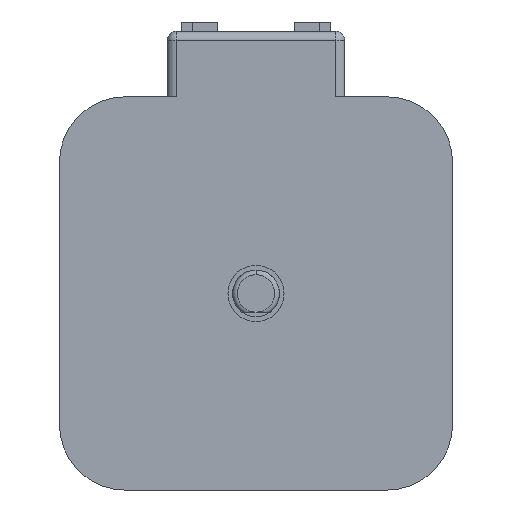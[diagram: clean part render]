
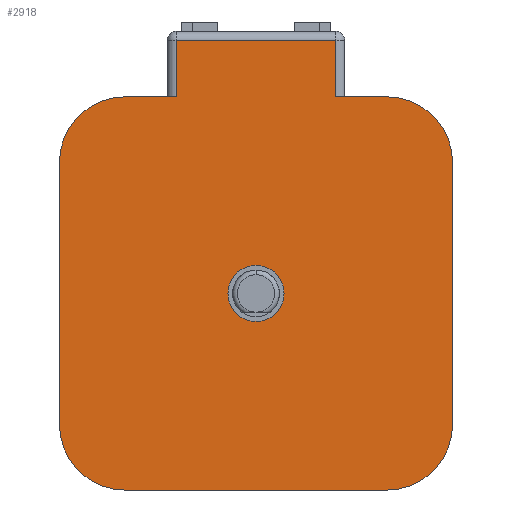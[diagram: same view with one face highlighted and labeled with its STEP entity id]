
A CAD part, front view. The second image highlights one B-rep face of the part: STEP entity #2918.
In plain terms, the highlighted planar face has unit normal (0, -1, 0).
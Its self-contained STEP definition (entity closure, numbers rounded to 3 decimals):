
#31 = ORIENTED_EDGE ( 'NONE', *, *, #4525, .T. ) ;
#51 = DIRECTION ( 'NONE',  ( 0., -1., 0. ) ) ;
#175 = ORIENTED_EDGE ( 'NONE', *, *, #3488, .T. ) ;
#176 = CARTESIAN_POINT ( 'NONE',  ( 21., -65., 21. ) ) ;
#181 = EDGE_CURVE ( 'NONE', #2226, #5499, #1094, .T. ) ;
#242 = CARTESIAN_POINT ( 'NONE',  ( 21., -65., -21. ) ) ;
#296 = EDGE_CURVE ( 'NONE', #3294, #4235, #3158, .T. ) ;
#521 = VECTOR ( 'NONE', #1186, 1000. ) ;
#536 = CARTESIAN_POINT ( 'NONE',  ( 14., -65., -21. ) ) ;
#578 = DIRECTION ( 'NONE',  ( 0., 0., -1. ) ) ;
#608 = CARTESIAN_POINT ( 'NONE',  ( -8.5, -65., 21. ) ) ;
#710 = LINE ( 'NONE', #176, #4697 ) ;
#722 = DIRECTION ( 'NONE',  ( 0., 0., 1. ) ) ;
#742 = ORIENTED_EDGE ( 'NONE', *, *, #4794, .T. ) ;
#785 = LINE ( 'NONE', #242, #5882 ) ;
#818 = EDGE_CURVE ( 'NONE', #3143, #2226, #3014, .T. ) ;
#868 = CARTESIAN_POINT ( 'NONE',  ( 21., -65., 21. ) ) ;
#1088 = ORIENTED_EDGE ( 'NONE', *, *, #2062, .T. ) ;
#1094 = LINE ( 'NONE', #4571, #4646 ) ;
#1110 = VECTOR ( 'NONE', #3151, 1000. ) ;
#1125 = DIRECTION ( 'NONE',  ( 0., -1., 0. ) ) ;
#1186 = DIRECTION ( 'NONE',  ( -1., 0., 0. ) ) ;
#1282 = AXIS2_PLACEMENT_3D ( 'NONE', #5182, #4733, #5744 ) ;
#1326 = CIRCLE ( 'NONE', #4828, 7. ) ;
#1453 = VECTOR ( 'NONE', #4729, 1000. ) ;
#1539 = ORIENTED_EDGE ( 'NONE', *, *, #4576, .T. ) ;
#1615 = AXIS2_PLACEMENT_3D ( 'NONE', #3046, #1125, #4412 ) ;
#1650 = DIRECTION ( 'NONE',  ( 0., -1., 0. ) ) ;
#1779 = VECTOR ( 'NONE', #2503, 1000. ) ;
#1846 = EDGE_CURVE ( 'NONE', #4597, #3294, #3692, .T. ) ;
#1927 = CARTESIAN_POINT ( 'NONE',  ( 14., -65., -14. ) ) ;
#1928 = CARTESIAN_POINT ( 'NONE',  ( -21., -65., 21. ) ) ;
#1955 = DIRECTION ( 'NONE',  ( 0., 0., 1. ) ) ;
#2033 = FACE_OUTER_BOUND ( 'NONE', #4061, .T. ) ;
#2062 = EDGE_CURVE ( 'NONE', #2527, #5983, #710, .T. ) ;
#2133 = VERTEX_POINT ( 'NONE', #3006 ) ;
#2135 = VERTEX_POINT ( 'NONE', #4819 ) ;
#2177 = EDGE_CURVE ( 'NONE', #4235, #5445, #785, .T. ) ;
#2226 = VERTEX_POINT ( 'NONE', #5830 ) ;
#2310 = DIRECTION ( 'NONE',  ( 0., 0., 1. ) ) ;
#2326 = EDGE_CURVE ( 'NONE', #3130, #3008, #4411, .T. ) ;
#2341 = ORIENTED_EDGE ( 'NONE', *, *, #1846, .T. ) ;
#2348 = ORIENTED_EDGE ( 'NONE', *, *, #3063, .T. ) ;
#2361 = LINE ( 'NONE', #868, #1110 ) ;
#2432 = LINE ( 'NONE', #2628, #521 ) ;
#2503 = DIRECTION ( 'NONE',  ( -1., 0., 0. ) ) ;
#2507 = EDGE_LOOP ( 'NONE', ( #3873, #4407 ) ) ;
#2525 = CARTESIAN_POINT ( 'NONE',  ( 8.5, -65., 27. ) ) ;
#2527 = VERTEX_POINT ( 'NONE', #3213 ) ;
#2589 = DIRECTION ( 'NONE',  ( 0., 0., -1. ) ) ;
#2617 = EDGE_CURVE ( 'NONE', #5445, #2527, #5942, .T. ) ;
#2628 = CARTESIAN_POINT ( 'NONE',  ( -9.5, -65., 27. ) ) ;
#2789 = CARTESIAN_POINT ( 'NONE',  ( 21., -65., 14. ) ) ;
#2834 = CARTESIAN_POINT ( 'NONE',  ( -14., -65., -14. ) ) ;
#2906 = AXIS2_PLACEMENT_3D ( 'NONE', #2834, #51, #4268 ) ;
#2918 = ADVANCED_FACE ( 'NONE', ( #4259, #2033 ), #4253, .F. ) ;
#2949 = ORIENTED_EDGE ( 'NONE', *, *, #2177, .T. ) ;
#3006 = CARTESIAN_POINT ( 'NONE',  ( -8.5, -65., 21. ) ) ;
#3008 = VERTEX_POINT ( 'NONE', #4859 ) ;
#3014 = LINE ( 'NONE', #5394, #1779 ) ;
#3046 = CARTESIAN_POINT ( 'NONE',  ( 14., -65., 14. ) ) ;
#3063 = EDGE_CURVE ( 'NONE', #5983, #3143, #4837, .T. ) ;
#3106 = CARTESIAN_POINT ( 'NONE',  ( 0., -65., 0. ) ) ;
#3118 = CARTESIAN_POINT ( 'NONE',  ( -8.5, -65., 27. ) ) ;
#3130 = VERTEX_POINT ( 'NONE', #5392 ) ;
#3143 = VERTEX_POINT ( 'NONE', #4037 ) ;
#3151 = DIRECTION ( 'NONE',  ( -1., 0., 0. ) ) ;
#3158 = CIRCLE ( 'NONE', #2906, 7. ) ;
#3213 = CARTESIAN_POINT ( 'NONE',  ( 21., -65., -14. ) ) ;
#3294 = VERTEX_POINT ( 'NONE', #5021 ) ;
#3421 = DIRECTION ( 'NONE',  ( 0., 0., 1. ) ) ;
#3477 = CARTESIAN_POINT ( 'NONE',  ( 0., -65., 0. ) ) ;
#3488 = EDGE_CURVE ( 'NONE', #5781, #2133, #5784, .T. ) ;
#3692 = LINE ( 'NONE', #1928, #1453 ) ;
#3751 = ORIENTED_EDGE ( 'NONE', *, *, #818, .T. ) ;
#3873 = ORIENTED_EDGE ( 'NONE', *, *, #2326, .F. ) ;
#3946 = DIRECTION ( 'NONE',  ( 1., 0., 0. ) ) ;
#3990 = AXIS2_PLACEMENT_3D ( 'NONE', #1927, #5154, #1955 ) ;
#4037 = CARTESIAN_POINT ( 'NONE',  ( 14., -65., 21. ) ) ;
#4061 = EDGE_LOOP ( 'NONE', ( #3751, #4489, #1539, #175, #742, #31, #2341, #4860, #2949, #5698, #1088, #2348 ) ) ;
#4235 = VERTEX_POINT ( 'NONE', #5535 ) ;
#4253 = PLANE ( 'NONE',  #1282 ) ;
#4259 = FACE_BOUND ( 'NONE', #2507, .T. ) ;
#4268 = DIRECTION ( 'NONE',  ( 0., 0., 1. ) ) ;
#4355 = DIRECTION ( 'NONE',  ( 0., -1., 0. ) ) ;
#4407 = ORIENTED_EDGE ( 'NONE', *, *, #5017, .F. ) ;
#4411 = CIRCLE ( 'NONE', #5372, 3. ) ;
#4412 = DIRECTION ( 'NONE',  ( 0., 0., 1. ) ) ;
#4462 = CARTESIAN_POINT ( 'NONE',  ( -21., -65., 14. ) ) ;
#4489 = ORIENTED_EDGE ( 'NONE', *, *, #181, .T. ) ;
#4498 = DIRECTION ( 'NONE',  ( 0., 0., -1. ) ) ;
#4525 = EDGE_CURVE ( 'NONE', #2135, #4597, #1326, .T. ) ;
#4527 = VECTOR ( 'NONE', #578, 1000. ) ;
#4571 = CARTESIAN_POINT ( 'NONE',  ( 8.5, -65., 0. ) ) ;
#4576 = EDGE_CURVE ( 'NONE', #5499, #5781, #2432, .T. ) ;
#4597 = VERTEX_POINT ( 'NONE', #4462 ) ;
#4646 = VECTOR ( 'NONE', #2310, 1000. ) ;
#4697 = VECTOR ( 'NONE', #3421, 1000. ) ;
#4729 = DIRECTION ( 'NONE',  ( 0., 0., -1. ) ) ;
#4733 = DIRECTION ( 'NONE',  ( 0., 1., 0. ) ) ;
#4794 = EDGE_CURVE ( 'NONE', #2133, #2135, #2361, .T. ) ;
#4819 = CARTESIAN_POINT ( 'NONE',  ( -14., -65., 21. ) ) ;
#4828 = AXIS2_PLACEMENT_3D ( 'NONE', #5863, #1650, #722 ) ;
#4837 = CIRCLE ( 'NONE', #1615, 7. ) ;
#4859 = CARTESIAN_POINT ( 'NONE',  ( 0., -65., 3. ) ) ;
#4860 = ORIENTED_EDGE ( 'NONE', *, *, #296, .T. ) ;
#5017 = EDGE_CURVE ( 'NONE', #3008, #3130, #5955, .T. ) ;
#5021 = CARTESIAN_POINT ( 'NONE',  ( -21., -65., -14. ) ) ;
#5154 = DIRECTION ( 'NONE',  ( 0., -1., 0. ) ) ;
#5182 = CARTESIAN_POINT ( 'NONE',  ( 0., -65., 0. ) ) ;
#5372 = AXIS2_PLACEMENT_3D ( 'NONE', #3106, #5901, #4498 ) ;
#5392 = CARTESIAN_POINT ( 'NONE',  ( 0., -65., -3. ) ) ;
#5394 = CARTESIAN_POINT ( 'NONE',  ( 21., -65., 21. ) ) ;
#5445 = VERTEX_POINT ( 'NONE', #536 ) ;
#5499 = VERTEX_POINT ( 'NONE', #2525 ) ;
#5535 = CARTESIAN_POINT ( 'NONE',  ( -14., -65., -21. ) ) ;
#5537 = AXIS2_PLACEMENT_3D ( 'NONE', #3477, #4355, #2589 ) ;
#5698 = ORIENTED_EDGE ( 'NONE', *, *, #2617, .T. ) ;
#5744 = DIRECTION ( 'NONE',  ( 0., 0., 1. ) ) ;
#5781 = VERTEX_POINT ( 'NONE', #3118 ) ;
#5784 = LINE ( 'NONE', #608, #4527 ) ;
#5830 = CARTESIAN_POINT ( 'NONE',  ( 8.5, -65., 21. ) ) ;
#5863 = CARTESIAN_POINT ( 'NONE',  ( -14., -65., 14. ) ) ;
#5882 = VECTOR ( 'NONE', #3946, 1000. ) ;
#5901 = DIRECTION ( 'NONE',  ( 0., -1., 0. ) ) ;
#5942 = CIRCLE ( 'NONE', #3990, 7. ) ;
#5955 = CIRCLE ( 'NONE', #5537, 3. ) ;
#5983 = VERTEX_POINT ( 'NONE', #2789 ) ;
